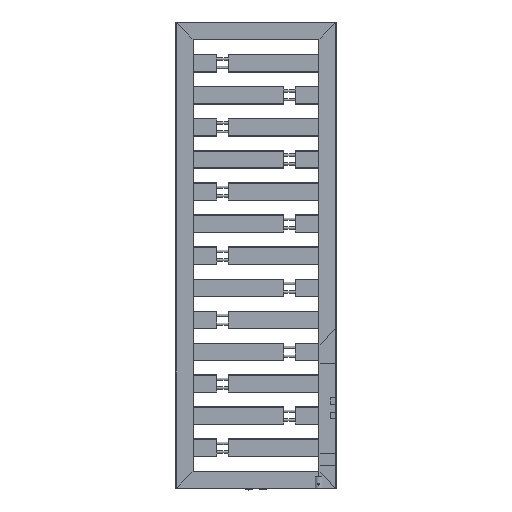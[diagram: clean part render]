
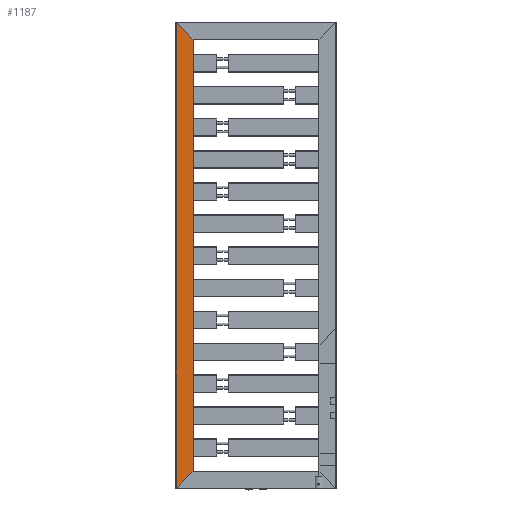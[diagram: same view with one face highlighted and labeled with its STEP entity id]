
A CAD part, top view. The second image highlights one B-rep face of the part: STEP entity #1187.
In plain terms, the highlighted planar face has unit normal (0, 0, 1) as drawn and (0, 0, -1) by its records, which use the part's own axes.
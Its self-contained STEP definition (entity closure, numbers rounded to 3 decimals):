
#1187 = ADVANCED_FACE( '', ( #2434 ), #2435, .T. );
#2434 = FACE_OUTER_BOUND( '', #3893, .T. );
#2435 = PLANE( '', #3894 );
#3893 = EDGE_LOOP( '', ( #6986, #6987, #6988, #6989 ) );
#3894 = AXIS2_PLACEMENT_3D( '', #6990, #6991, #6992 );
#6986 = ORIENTED_EDGE( '', *, *, #7763, .F. );
#6987 = ORIENTED_EDGE( '', *, *, #8154, .F. );
#6988 = ORIENTED_EDGE( '', *, *, #8481, .T. );
#6989 = ORIENTED_EDGE( '', *, *, #8735, .T. );
#6990 = CARTESIAN_POINT( '', ( 1., 1600., 0. ) );
#6991 = DIRECTION( '', ( 0., 0., -1. ) );
#6992 = DIRECTION( '', ( -1., 0., 0. ) );
#7763 = EDGE_CURVE( '', #9216, #9218, #9219, .T. );
#8154 = EDGE_CURVE( '', #9835, #9216, #9837, .T. );
#8481 = EDGE_CURVE( '', #9835, #10305, #10307, .T. );
#8735 = EDGE_CURVE( '', #10305, #9218, #10612, .T. );
#9216 = VERTEX_POINT( '', #11342 );
#9218 = VERTEX_POINT( '', #11344 );
#9219 = LINE( '', #11345, #11346 );
#9835 = VERTEX_POINT( '', #12526 );
#9837 = LINE( '', #12528, #12529 );
#10305 = VERTEX_POINT( '', #13319 );
#10307 = LINE( '', #13321, #13322 );
#10612 = LINE( '', #13869, #13870 );
#11342 = CARTESIAN_POINT( '', ( 1., 59., 0. ) );
#11344 = CARTESIAN_POINT( '', ( 59., 1., 0. ) );
#11345 = CARTESIAN_POINT( '', ( -769.5, 829.5, 0. ) );
#11346 = VECTOR( '', #14256, 1000. );
#12526 = CARTESIAN_POINT( '', ( 1., 1541., 0. ) );
#12528 = CARTESIAN_POINT( '', ( 1., 1600., 0. ) );
#12529 = VECTOR( '', #14681, 1000. );
#13319 = CARTESIAN_POINT( '', ( 59., 1599., 0. ) );
#13321 = CARTESIAN_POINT( '', ( 30.5, 1570.5, 0. ) );
#13322 = VECTOR( '', #15025, 1000. );
#13869 = CARTESIAN_POINT( '', ( 59., 1600., 0. ) );
#13870 = VECTOR( '', #15238, 1000. );
#14256 = DIRECTION( '', ( 0.707, -0.707, 0. ) );
#14681 = DIRECTION( '', ( 0., -1., 0. ) );
#15025 = DIRECTION( '', ( 0.707, 0.707, 0. ) );
#15238 = DIRECTION( '', ( 0., -1., 0. ) );
